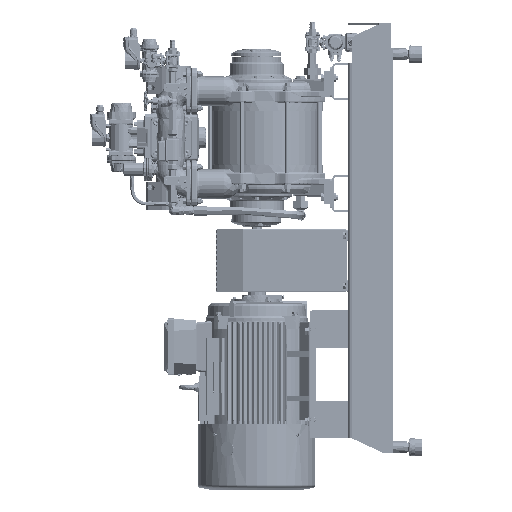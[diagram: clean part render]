
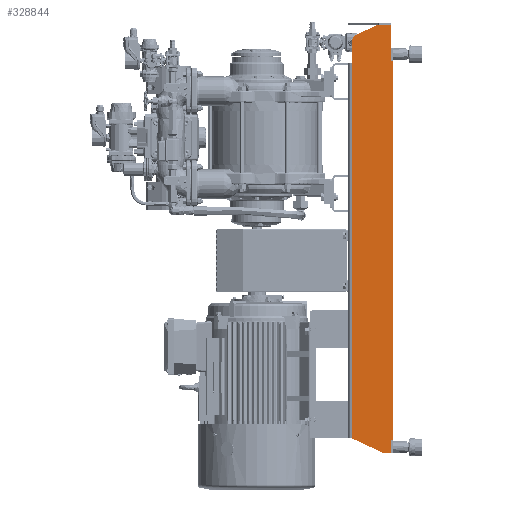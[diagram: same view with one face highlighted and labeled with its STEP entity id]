
A CAD part, left-side view. The second image highlights one B-rep face of the part: STEP entity #328844.
In plain terms, the highlighted planar face has unit normal (-1, 0, 0).
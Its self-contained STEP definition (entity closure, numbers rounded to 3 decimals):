
#10695=PLANE('',#353199);
#39164=FACE_OUTER_BOUND('',#59516,.T.);
#59516=EDGE_LOOP('',(#253897,#253898,#253899,#253900,#253901,#253902,#253903,
#253904,#253905,#253906,#253907,#253908));
#84983=LINE('',#552689,#109692);
#85670=LINE('',#554871,#110379);
#85671=LINE('',#554873,#110380);
#85672=LINE('',#554874,#110381);
#85673=LINE('',#554876,#110382);
#85674=LINE('',#554880,#110383);
#85675=LINE('',#554881,#110384);
#85676=LINE('',#554883,#110385);
#85677=LINE('',#554885,#110386);
#85678=LINE('',#554887,#110387);
#85679=LINE('',#554888,#110388);
#109692=VECTOR('',#407087,10.);
#110379=VECTOR('',#408954,10.);
#110380=VECTOR('',#408955,10.);
#110381=VECTOR('',#408956,10.);
#110382=VECTOR('',#408957,10.);
#110383=VECTOR('',#408960,10.);
#110384=VECTOR('',#408961,10.);
#110385=VECTOR('',#408962,10.);
#110386=VECTOR('',#408963,10.);
#110387=VECTOR('',#408964,10.);
#110388=VECTOR('',#408965,10.);
#124556=CIRCLE('',#353200,25.);
#147205=VERTEX_POINT('',#552686);
#147206=VERTEX_POINT('',#552688);
#147836=VERTEX_POINT('',#554855);
#147840=VERTEX_POINT('',#554869);
#147841=VERTEX_POINT('',#554870);
#147842=VERTEX_POINT('',#554872);
#147843=VERTEX_POINT('',#554875);
#147844=VERTEX_POINT('',#554877);
#147845=VERTEX_POINT('',#554879);
#147846=VERTEX_POINT('',#554882);
#147847=VERTEX_POINT('',#554884);
#147848=VERTEX_POINT('',#554886);
#184395=EDGE_CURVE('',#147205,#147206,#84983,.T.);
#185414=EDGE_CURVE('',#147840,#147841,#85670,.T.);
#185415=EDGE_CURVE('',#147840,#147842,#85671,.T.);
#185416=EDGE_CURVE('',#147206,#147842,#85672,.T.);
#185417=EDGE_CURVE('',#147843,#147205,#85673,.T.);
#185418=EDGE_CURVE('',#147844,#147843,#124556,.T.);
#185419=EDGE_CURVE('',#147845,#147844,#85674,.T.);
#185420=EDGE_CURVE('',#147845,#147836,#85675,.T.);
#185421=EDGE_CURVE('',#147846,#147836,#85676,.T.);
#185422=EDGE_CURVE('',#147847,#147846,#85677,.T.);
#185423=EDGE_CURVE('',#147847,#147848,#85678,.T.);
#185424=EDGE_CURVE('',#147848,#147841,#85679,.T.);
#253897=ORIENTED_EDGE('',*,*,#185414,.F.);
#253898=ORIENTED_EDGE('',*,*,#185415,.T.);
#253899=ORIENTED_EDGE('',*,*,#185416,.F.);
#253900=ORIENTED_EDGE('',*,*,#184395,.F.);
#253901=ORIENTED_EDGE('',*,*,#185417,.F.);
#253902=ORIENTED_EDGE('',*,*,#185418,.F.);
#253903=ORIENTED_EDGE('',*,*,#185419,.F.);
#253904=ORIENTED_EDGE('',*,*,#185420,.T.);
#253905=ORIENTED_EDGE('',*,*,#185421,.F.);
#253906=ORIENTED_EDGE('',*,*,#185422,.F.);
#253907=ORIENTED_EDGE('',*,*,#185423,.T.);
#253908=ORIENTED_EDGE('',*,*,#185424,.T.);
#328844=ADVANCED_FACE('',(#39164),#10695,.T.);
#353199=AXIS2_PLACEMENT_3D('',#554868,#408952,#408953);
#353200=AXIS2_PLACEMENT_3D('',#554878,#408958,#408959);
#407087=DIRECTION('',(0.,-1.,0.));
#408952=DIRECTION('center_axis',(-1.,0.,0.));
#408953=DIRECTION('ref_axis',(0.,0.,
-1.));
#408954=DIRECTION('',(0.,0.,-1.));
#408955=DIRECTION('',(0.,1.,0.));
#408956=DIRECTION('',(0.,0.,-1.));
#408957=DIRECTION('',(0.,-0.906,0.423));
#408958=DIRECTION('center_axis',(1.,0.,0.));
#408959=DIRECTION('ref_axis',(0.,0.843,0.537));
#408960=DIRECTION('',(0.,0.,1.));
#408961=DIRECTION('',(0.,0.,-1.));
#408962=DIRECTION('',(0.,0.906,0.423));
#408963=DIRECTION('',(0.,1.,0.));
#408964=DIRECTION('',(0.,0.,1.));
#408965=DIRECTION('',(0.,-1.,0.));
#552686=CARTESIAN_POINT('',(-254.,51.196,713.75));
#552688=CARTESIAN_POINT('',(-254.,6.,713.75));
#552689=CARTESIAN_POINT('',(-254.,51.196,713.75));
#554855=CARTESIAN_POINT('',(-254.,138.,-683.25));
#554868=CARTESIAN_POINT('Origin',(-254.,403.586,-140.));
#554869=CARTESIAN_POINT('',(-254.,0.,589.75));
#554870=CARTESIAN_POINT('',(-254.,0.,-689.25));
#554871=CARTESIAN_POINT('',(-254.,0.,-933.75));
#554872=CARTESIAN_POINT('',(-254.,6.,589.75));
#554873=CARTESIAN_POINT('',(-254.,201.793,589.75));
#554874=CARTESIAN_POINT('',(-254.,6.,713.75));
#554875=CARTESIAN_POINT('',(-254.,123.565,680.004));
#554876=CARTESIAN_POINT('',(-254.,138.,673.273));
#554877=CARTESIAN_POINT('',(-254.,138.,657.346));
#554878=CARTESIAN_POINT('Origin',(-254.,113.,657.346));
#554879=CARTESIAN_POINT('',(-254.,138.,583.75));
#554880=CARTESIAN_POINT('',(-254.,138.,583.75));
#554881=CARTESIAN_POINT('',(-254.,138.,-140.));
#554882=CARTESIAN_POINT('',(-254.,30.775,-733.25));
#554883=CARTESIAN_POINT('',(-254.,30.775,-733.25));
#554884=CARTESIAN_POINT('',(-254.,6.,-733.25));
#554885=CARTESIAN_POINT('',(-254.,0.,-733.25));
#554886=CARTESIAN_POINT('',(-254.,6.,-689.25));
#554887=CARTESIAN_POINT('',(-254.,6.,-440.375));
#554888=CARTESIAN_POINT('',(-254.,201.793,-689.25));
